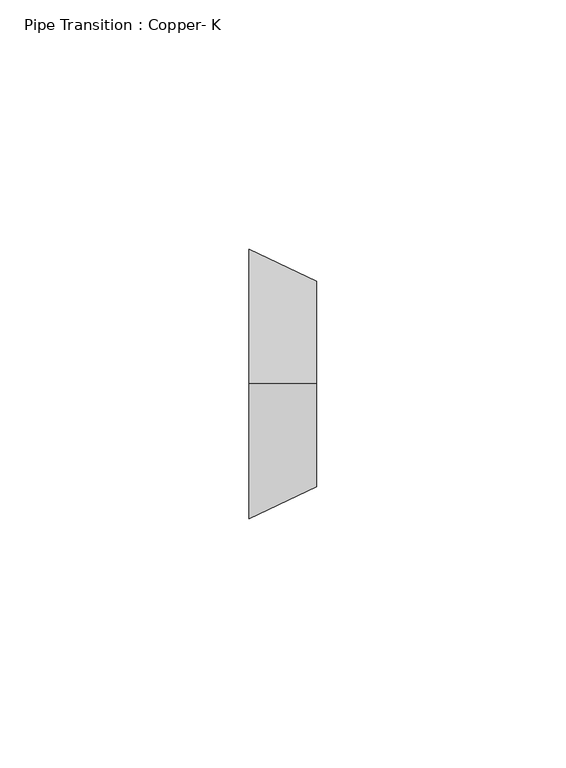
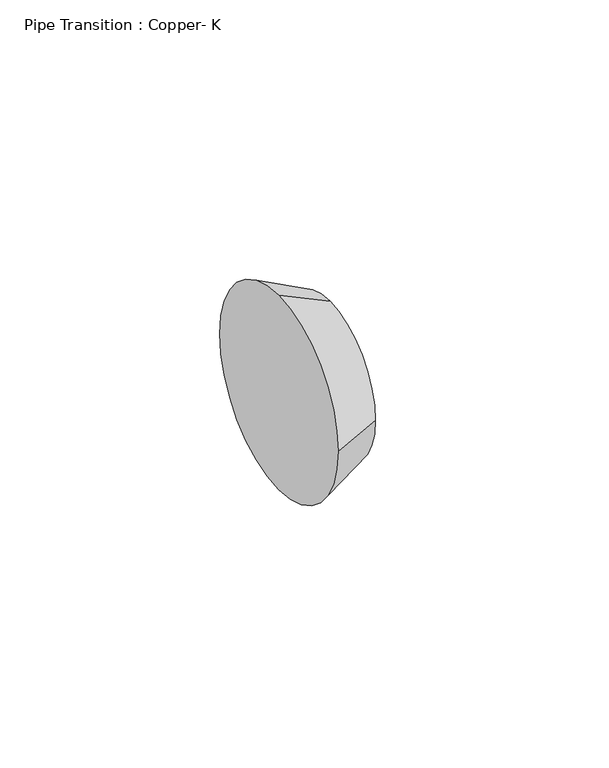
"""IFC4 building model written with IfcOpenShell, lengths in millimetres: pipe fitting geometry, Pipe Transition : Copper- K."""

from ifc_helpers import new_model, si_unit, frame, origin, place, context, project, spatial, circle_curve, source, transform, mapped, element, save
from ifc_brep_helpers import plane_surface, spline_surface, advanced_brep


def pipe_transition_copper_k_b05302ca(model_context):
    return source(origin(), model_context, "Body", "AdvancedBrep", [
        advanced_brep(
        [(13.49375, 0.0, 20.6742095), (13.49375, -20.6375, 0.0367095), (13.49375, 0.0, -20.6007905), (13.49375, 20.6375, 0.0367095), (0.0, 0.0, 26.9875), (0.0, 26.9875, 0.0), (0.0, 0.0, -26.9875), (0.0, -26.9875, 0.0)],
        [
            (0, 1, circle_curve(frame((13.49375, 0.0, 0.0367095), z_axis=(1.0, 0.0, 0.0), x_axis=(0.0, 1.0, 0.0)), 20.6375)),
            (1, 2, circle_curve(frame((13.49375, 0.0, 0.0367095), z_axis=(1.0, 0.0, 0.0), x_axis=(0.0, 1.0, 0.0)), 20.6375)),
            (2, 3, circle_curve(frame((13.49375, 0.0, 0.0367095), z_axis=(1.0, 0.0, 0.0), x_axis=(0.0, 1.0, 0.0)), 20.6375)),
            (3, 0, circle_curve(frame((13.49375, 0.0, 0.0367095), z_axis=(1.0, 0.0, 0.0), x_axis=(0.0, 1.0, 0.0)), 20.6375)),
            (4, 5, circle_curve(frame((0.0, 0.0, 0.0), z_axis=(-1.0, 0.0, 0.0), x_axis=(0.0, 1.0, 0.0)), 26.9875)),
            (5, 6, circle_curve(frame((0.0, 0.0, 0.0), z_axis=(-1.0, 0.0, 0.0), x_axis=(0.0, 1.0, 0.0)), 26.9875)),
            (6, 7, circle_curve(frame((0.0, 0.0, 0.0), z_axis=(-1.0, 0.0, 0.0), x_axis=(0.0, 1.0, 0.0)), 26.9875)),
            (7, 4, circle_curve(frame((0.0, 0.0, 0.0), z_axis=(-1.0, 0.0, 0.0), x_axis=(0.0, 1.0, 0.0)), 26.9875)),
            (7, 1),
            (0, 4),
            (6, 2),
            (5, 3),
        ],
        [
            plane_surface(frame((13.49375, 0.0, 0.0367095), z_axis=(1.0, 0.0, 0.0), x_axis=(0.0, -1.0, 0.0))),
            plane_surface(frame((0.0, 0.0, 0.0), z_axis=(-1.0, 0.0, 0.0), x_axis=(0.0, -1.0, 0.0))),
            spline_surface(2, 1, [[(0.0, 0.0, 26.9875), (13.49375, 0.0, 20.6742095)], [(0.0, -26.9875, 26.9875), (13.49375, -20.6375, 20.6742095)], [(0.0, -26.9875, 0.0), (13.49375, -20.6375, 0.0367095)]], [3, 3], [2, 2], [0.0, 1.0], [0.0, 1.0], weights=[[1.0, 1.0], [0.7071067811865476, 0.7071067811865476], [1.0, 1.0]]),
            spline_surface(2, 1, [[(0.0, -26.9875, 0.0), (13.49375, -20.6375, 0.0367095)], [(0.0, -26.9875, -26.9875), (13.49375, -20.6375, -20.6007905)], [(0.0, 0.0, -26.9875), (13.49375, 0.0, -20.6007905)]], [3, 3], [2, 2], [0.0, 1.0], [0.0, 1.0], weights=[[1.0, 1.0], [0.7071067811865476, 0.7071067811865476], [1.0, 1.0]]),
            spline_surface(2, 1, [[(0.0, 0.0, -26.9875), (13.49375, 0.0, -20.6007905)], [(0.0, 26.9875, -26.9875), (13.49375, 20.6375, -20.6007905)], [(0.0, 26.9875, 0.0), (13.49375, 20.6375, 0.0367095)]], [3, 3], [2, 2], [0.0, 1.0], [0.0, 1.0], weights=[[1.0, 1.0], [0.7071067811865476, 0.7071067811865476], [1.0, 1.0]]),
            spline_surface(2, 1, [[(0.0, 26.9875, 0.0), (13.49375, 20.6375, 0.0367095)], [(0.0, 26.9875, 26.9875), (13.49375, 20.6375, 20.6742095)], [(0.0, 0.0, 26.9875), (13.49375, 0.0, 20.6742095)]], [3, 3], [2, 2], [0.0, 1.0], [0.0, 1.0], weights=[[1.0, 1.0], [0.7071067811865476, 0.7071067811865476], [1.0, 1.0]]),
        ],
        [
            (0, [[1, 2, 3, 4]]),
            (1, [[5, 6, 7, 8]]),
            (2, [[-8, 9, -1, 10]]),
            (3, [[-7, 11, -2, -9]]),
            (4, [[-6, 12, -3, -11]]),
            (5, [[-5, -10, -4, -12]]),
        ],
    ),
        advanced_brep(
        [(13.49375, 0.0, 20.6742095), (13.49375, -20.6375, 0.0367095), (13.49375, 0.0, -20.6007905), (13.49375, 20.6375, 0.0367095), (0.0, 0.0, 26.9875), (0.0, 26.9875, 0.0), (0.0, 0.0, -26.9875), (0.0, -26.9875, 0.0)],
        [
            (0, 1, circle_curve(frame((13.49375, 0.0, 0.0367095), z_axis=(1.0, 0.0, 0.0), x_axis=(0.0, 1.0, 0.0)), 20.6375)),
            (1, 2, circle_curve(frame((13.49375, 0.0, 0.0367095), z_axis=(1.0, 0.0, 0.0), x_axis=(0.0, 1.0, 0.0)), 20.6375)),
            (2, 3, circle_curve(frame((13.49375, 0.0, 0.0367095), z_axis=(1.0, 0.0, 0.0), x_axis=(0.0, 1.0, 0.0)), 20.6375)),
            (3, 0, circle_curve(frame((13.49375, 0.0, 0.0367095), z_axis=(1.0, 0.0, 0.0), x_axis=(0.0, 1.0, 0.0)), 20.6375)),
            (4, 5, circle_curve(frame((0.0, 0.0, 0.0), z_axis=(-1.0, 0.0, 0.0), x_axis=(0.0, 1.0, 0.0)), 26.9875)),
            (5, 6, circle_curve(frame((0.0, 0.0, 0.0), z_axis=(-1.0, 0.0, 0.0), x_axis=(0.0, 1.0, 0.0)), 26.9875)),
            (6, 7, circle_curve(frame((0.0, 0.0, 0.0), z_axis=(-1.0, 0.0, 0.0), x_axis=(0.0, 1.0, 0.0)), 26.9875)),
            (7, 4, circle_curve(frame((0.0, 0.0, 0.0), z_axis=(-1.0, 0.0, 0.0), x_axis=(0.0, 1.0, 0.0)), 26.9875)),
            (7, 1),
            (0, 4),
            (6, 2),
            (5, 3),
        ],
        [
            plane_surface(frame((13.49375, 0.0, 0.0367095), z_axis=(1.0, 0.0, 0.0), x_axis=(0.0, -1.0, 0.0))),
            plane_surface(frame((0.0, 0.0, 0.0), z_axis=(-1.0, 0.0, 0.0), x_axis=(0.0, -1.0, 0.0))),
            spline_surface(2, 1, [[(0.0, 0.0, 26.9875), (13.49375, 0.0, 20.6742095)], [(0.0, -26.9875, 26.9875), (13.49375, -20.6375, 20.6742095)], [(0.0, -26.9875, 0.0), (13.49375, -20.6375, 0.0367095)]], [3, 3], [2, 2], [0.0, 1.0], [0.0, 1.0], weights=[[1.0, 1.0], [0.7071067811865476, 0.7071067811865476], [1.0, 1.0]]),
            spline_surface(2, 1, [[(0.0, -26.9875, 0.0), (13.49375, -20.6375, 0.0367095)], [(0.0, -26.9875, -26.9875), (13.49375, -20.6375, -20.6007905)], [(0.0, 0.0, -26.9875), (13.49375, 0.0, -20.6007905)]], [3, 3], [2, 2], [0.0, 1.0], [0.0, 1.0], weights=[[1.0, 1.0], [0.7071067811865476, 0.7071067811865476], [1.0, 1.0]]),
            spline_surface(2, 1, [[(0.0, 0.0, -26.9875), (13.49375, 0.0, -20.6007905)], [(0.0, 26.9875, -26.9875), (13.49375, 20.6375, -20.6007905)], [(0.0, 26.9875, 0.0), (13.49375, 20.6375, 0.0367095)]], [3, 3], [2, 2], [0.0, 1.0], [0.0, 1.0], weights=[[1.0, 1.0], [0.7071067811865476, 0.7071067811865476], [1.0, 1.0]]),
            spline_surface(2, 1, [[(0.0, 26.9875, 0.0), (13.49375, 20.6375, 0.0367095)], [(0.0, 26.9875, 26.9875), (13.49375, 20.6375, 20.6742095)], [(0.0, 0.0, 26.9875), (13.49375, 0.0, 20.6742095)]], [3, 3], [2, 2], [0.0, 1.0], [0.0, 1.0], weights=[[1.0, 1.0], [0.7071067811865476, 0.7071067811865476], [1.0, 1.0]]),
        ],
        [
            (0, [[1, 2, 3, 4]]),
            (1, [[5, 6, 7, 8]]),
            (2, [[-8, 9, -1, 10]]),
            (3, [[-7, 11, -2, -9]]),
            (4, [[-6, 12, -3, -11]]),
            (5, [[-5, -10, -4, -12]]),
        ],
    ),
    ])


if __name__ == "__main__":
    model = new_model("IFC4")
    model_context = context("Model", 3, world=origin())
    ifc_project = project(units=[si_unit("LENGTHUNIT", "METRE", prefix="MILLI")], contexts=[model_context])
    site = spatial("IfcSite", under=ifc_project)
    building = spatial("IfcBuilding", under=site)
    placement = place(None, origin())
    pipe_transition_copper_k_shape = pipe_transition_copper_k_b05302ca(model_context)
    element("IfcPipeFitting", 1, ObjectType="Pipe Transition : Copper- K", at=placement, inside=building, context=model_context, shape_type="MappedRepresentation", body=[
        mapped(pipe_transition_copper_k_shape, transform((0.0, 0.0, 0.0), x_axis=(1.0, 0.0, 0.0), y_axis=(0.0, 1.0, 0.0), z_axis=(0.0, 0.0, 1.0))),
    ])
    save(model, "model.ifc")
